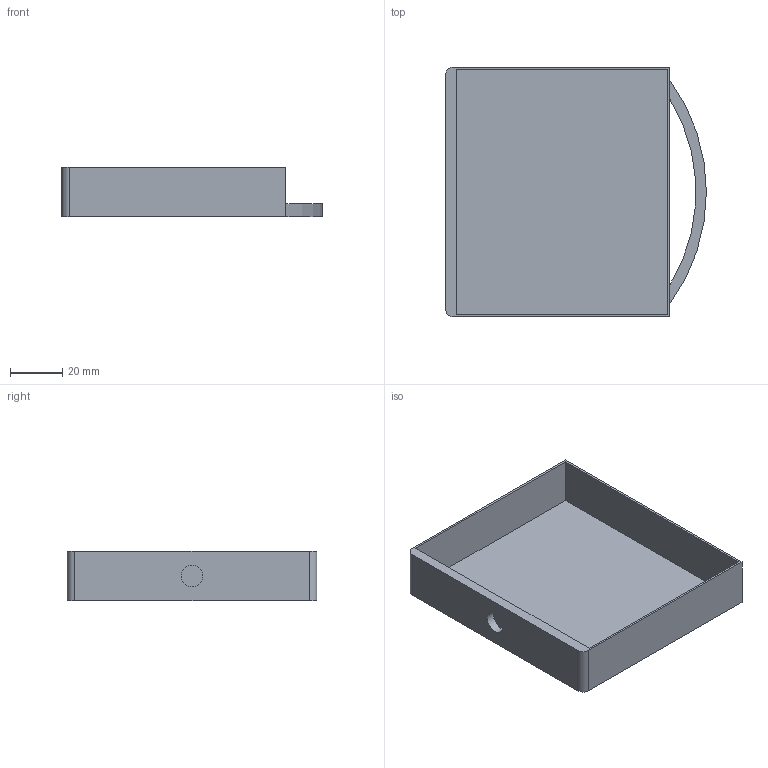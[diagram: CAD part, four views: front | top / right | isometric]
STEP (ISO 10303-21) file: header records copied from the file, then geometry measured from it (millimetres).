
FILE_DESCRIPTION(/* description */ (''),/* implementation_level */ '2;1');
FILE_NAME(/* name */ 'C:/Users/pet3r/Desktop/3D/MOJE/My Drawers/STEP/Drawer 2x1.step',/* time_stamp */ '2018-03-31T21:33:49+02:00',/* author */ (''),/* organization */ (''),/* preprocessor_version */ 'ST-DEVELOPER v16.13',/* originating_system */ 'Autodesk Translation Framework v6.5.0.72',/* authorisation */ '');
FILE_SCHEMA (('AUTOMOTIVE_DESIGN { 1 0 10303 214 3 1 1 }'));
Length unit declared in the file: millimetre
Products named in the file (1): Drawer 2x1
Bounding box: 100 x 95.8 x 19 mm (x, y, z)
Volume: 19978.1 mm3; surface area: 31182.1 mm2
Topology: 1 solids, 1 shells, 18 faces, 45 edges, 30 vertices
Faces by surface type: plane 13, cylinder 5
Full cylindrical faces by diameter (mm): 8.3 x1
Entity records: 583 total; most frequent: CARTESIAN_POINT 94, DIRECTION 93, ORIENTED_EDGE 90, EDGE_CURVE 45, LINE 35, VECTOR 35, VERTEX_POINT 30, AXIS2_PLACEMENT_3D 29
